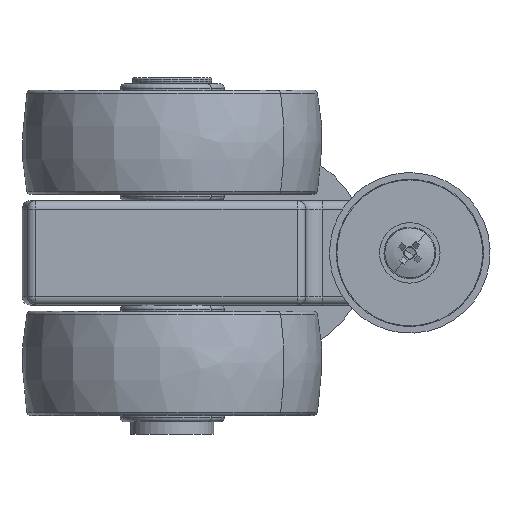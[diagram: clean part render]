
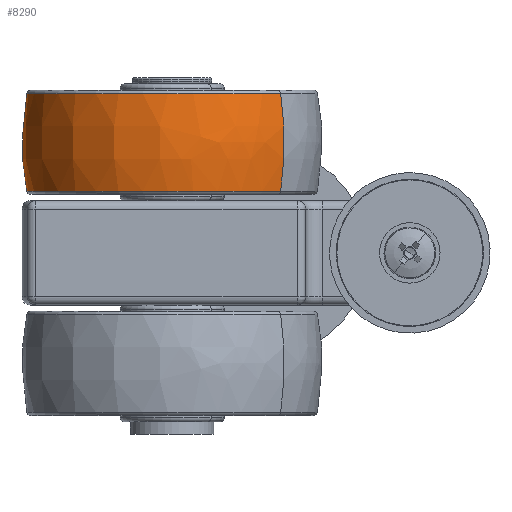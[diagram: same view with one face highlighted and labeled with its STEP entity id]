
A CAD part, front view. The second image highlights one B-rep face of the part: STEP entity #8290.
In plain terms, the highlighted free-form (B-spline) face has degree [3, 3] with [4, 4] control points.
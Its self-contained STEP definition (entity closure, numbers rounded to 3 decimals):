
#159 = DIRECTION ( 'NONE',  ( 0.747, -0.665, 0. ) ) ;
#233 = EDGE_CURVE ( 'NONE', #5886, #465, #15192, .T. ) ;
#465 = VERTEX_POINT ( 'NONE', #5538 ) ;
#477 = VERTEX_POINT ( 'NONE', #6963 ) ;
#686 =( BOUNDED_SURFACE ( )  B_SPLINE_SURFACE ( 3, 3, ( 
 ( #14669, #9630, #2507, #1136 ),
 ( #12262, #11950, #6197, #2267 ),
 ( #9542, #12023, #13472, #3717 ),
 ( #3631, #3393, #6040, #5877 ) ),
 .UNSPECIFIED., .F., .F., .T. ) 
 B_SPLINE_SURFACE_WITH_KNOTS ( ( 4, 4 ),
 ( 4, 4 ),
 ( 0., 1. ),
 ( 0., 1. ),
 .UNSPECIFIED. ) 
 GEOMETRIC_REPRESENTATION_ITEM ( )  RATIONAL_B_SPLINE_SURFACE ( (
 ( 1., 0.333, 0.333, 1.),
 ( 0.987, 0.329, 0.329, 0.987),
 ( 0.987, 0.329, 0.329, 0.987),
 ( 1., 0.333, 0.333, 1.) ) ) 
 REPRESENTATION_ITEM ( '' )  SURFACE ( )  );
#1035 = DIRECTION ( 'NONE',  ( 0., 0., -1. ) ) ;
#1048 = CARTESIAN_POINT ( 'NONE',  ( 53.926, -4.958, 26.5 ) ) ;
#1136 = CARTESIAN_POINT ( 'NONE',  ( 9.97, 34.171, 14.805 ) ) ;
#2267 = CARTESIAN_POINT ( 'NONE',  ( 8.82, 35.195, 22.551 ) ) ;
#2369 = CARTESIAN_POINT ( 'NONE',  ( 62.03, -12.171, 38.195 ) ) ;
#2507 = CARTESIAN_POINT ( 'NONE',  ( -36.372, -17.889, 14.805 ) ) ;
#2518 = ORIENTED_EDGE ( 'NONE', *, *, #6331, .T. ) ;
#3393 = CARTESIAN_POINT ( 'NONE',  ( 15.688, -64.231, 38.195 ) ) ;
#3631 = CARTESIAN_POINT ( 'NONE',  ( 62.03, -12.171, 38.195 ) ) ;
#3692 = DIRECTION ( 'NONE',  ( -0.747, 0.665, 0. ) ) ;
#3717 = CARTESIAN_POINT ( 'NONE',  ( 8.82, 35.195, 30.449 ) ) ;
#3959 = DIRECTION ( 'NONE',  ( -0.747, 0.665, 0. ) ) ;
#3981 = AXIS2_PLACEMENT_3D ( 'NONE', #14206, #10681, #10601 ) ;
#4849 = CARTESIAN_POINT ( 'NONE',  ( 36., 11., 14.805 ) ) ;
#5538 = CARTESIAN_POINT ( 'NONE',  ( 9.97, 34.171, 14.805 ) ) ;
#5877 = CARTESIAN_POINT ( 'NONE',  ( 9.97, 34.171, 38.195 ) ) ;
#5886 = VERTEX_POINT ( 'NONE', #11951 ) ;
#6040 = CARTESIAN_POINT ( 'NONE',  ( -36.372, -17.889, 38.195 ) ) ;
#6197 = CARTESIAN_POINT ( 'NONE',  ( -39.569, -19.165, 22.551 ) ) ;
#6331 = EDGE_CURVE ( 'NONE', #12800, #5886, #9780, .T. ) ;
#6369 = ORIENTED_EDGE ( 'NONE', *, *, #233, .T. ) ;
#6963 = CARTESIAN_POINT ( 'NONE',  ( 62.03, -12.171, 14.805 ) ) ;
#7526 = AXIS2_PLACEMENT_3D ( 'NONE', #1048, #9930, #159 ) ;
#8249 = AXIS2_PLACEMENT_3D ( 'NONE', #14647, #1035, #3692 ) ;
#8290 = ADVANCED_FACE ( 'NONE', ( #12188 ), #686, .T. ) ;
#9542 = CARTESIAN_POINT ( 'NONE',  ( 63.18, -13.195, 30.449 ) ) ;
#9630 = CARTESIAN_POINT ( 'NONE',  ( 15.688, -64.231, 14.805 ) ) ;
#9721 = DIRECTION ( 'NONE',  ( 0., 0., -1. ) ) ;
#9780 = CIRCLE ( 'NONE', #8249, 34.849 ) ;
#9930 = DIRECTION ( 'NONE',  ( -0.665, -0.747, 0. ) ) ;
#10601 = DIRECTION ( 'NONE',  ( -0.747, 0.665, 0. ) ) ;
#10681 = DIRECTION ( 'NONE',  ( 0.665, 0.747, 0. ) ) ;
#11950 = CARTESIAN_POINT ( 'NONE',  ( 14.79, -67.554, 22.551 ) ) ;
#11951 = CARTESIAN_POINT ( 'NONE',  ( 9.97, 34.171, 38.195 ) ) ;
#12023 = CARTESIAN_POINT ( 'NONE',  ( 14.79, -67.554, 30.449 ) ) ;
#12188 = FACE_OUTER_BOUND ( 'NONE', #12590, .T. ) ;
#12262 = CARTESIAN_POINT ( 'NONE',  ( 63.18, -13.195, 22.551 ) ) ;
#12590 = EDGE_LOOP ( 'NONE', ( #15381, #2518, #6369, #14289 ) ) ;
#12800 = VERTEX_POINT ( 'NONE', #2369 ) ;
#13472 = CARTESIAN_POINT ( 'NONE',  ( -39.569, -19.165, 30.449 ) ) ;
#14206 = CARTESIAN_POINT ( 'NONE',  ( 18.074, 26.958, 26.5 ) ) ;
#14218 = EDGE_CURVE ( 'NONE', #12800, #477, #15730, .T. ) ;
#14289 = ORIENTED_EDGE ( 'NONE', *, *, #15397, .F. ) ;
#14406 = AXIS2_PLACEMENT_3D ( 'NONE', #4849, #9721, #3959 ) ;
#14647 = CARTESIAN_POINT ( 'NONE',  ( 36., 11., 38.195 ) ) ;
#14669 = CARTESIAN_POINT ( 'NONE',  ( 62.03, -12.171, 14.805 ) ) ;
#15179 = CIRCLE ( 'NONE', #14406, 34.849 ) ;
#15192 = CIRCLE ( 'NONE', #7526, 60. ) ;
#15381 = ORIENTED_EDGE ( 'NONE', *, *, #14218, .F. ) ;
#15397 = EDGE_CURVE ( 'NONE', #477, #465, #15179, .T. ) ;
#15730 = CIRCLE ( 'NONE', #3981, 60. ) ;
